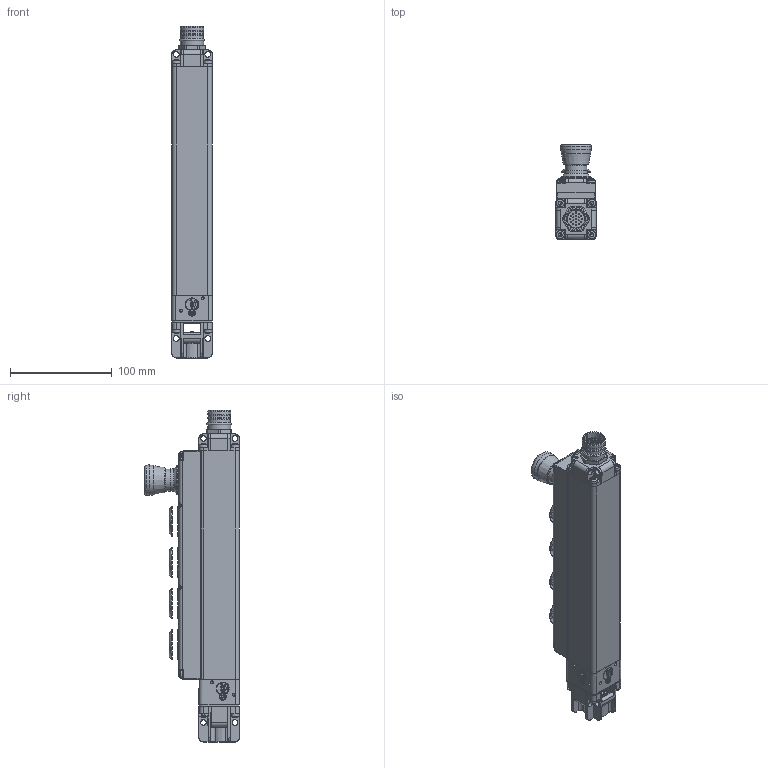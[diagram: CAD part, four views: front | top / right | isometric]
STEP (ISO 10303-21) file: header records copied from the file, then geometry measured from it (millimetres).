
FILE_DESCRIPTION(/* description */ (''),/* implementation_level */ '2;1');
FILE_NAME(/* name */ '2037999_A_PSENmg1-B-xxxxx-Fxxx-Ux-U.stp',/* time_stamp */ '2025-08-11T07:44:31+02:00',/* author */ ('prim'),/* organization */ (''),/* preprocessor_version */ 'ST-DEVELOPER v20',/* originating_system */ 'Autodesk Inventor 2024',/* authorisation */ '');
FILE_SCHEMA (('AUTOMOTIVE_DESIGN { 1 0 10303 214 3 1 1 }'));
Products named in the file (1): 2037999
Bounding box: 40 x 93.5 x 326.9 mm (x, y, z)
Volume: 657487.6 mm3; surface area: 87741.7 mm2
Topology: 1 solids, 1 shells, 2033 faces, 5109 edges, 3119 vertices
Faces by surface type: cylinder 690, plane 455, bspline 333, cone 276, torus 203, sphere 76
Full cylindrical faces by diameter (mm): 1 x16, 1.5 x3, 2.693 x3, 3.1 x3, 5.5 x11, 8.2 x4, 9 x1, 10 x1, 12 x1, 12.15 x1, 16.1 x1, 19.85 x4, 20 x1, 21.5 x1, 21.7 x3, 22.2 x1, 22.55 x1, 22.642 x4, 22.8 x4, 28 x1, 28.2 x1, 28.6 x4, 29.2 x4
Entity records: 77007 total; most frequent: CARTESIAN_POINT 30374, ORIENTED_EDGE 10116, DIRECTION 9270, EDGE_CURVE 5058, AXIS2_PLACEMENT_3D 3760, VERTEX_POINT 3119, EDGE_LOOP 2163, FACE_OUTER_BOUND 2033
